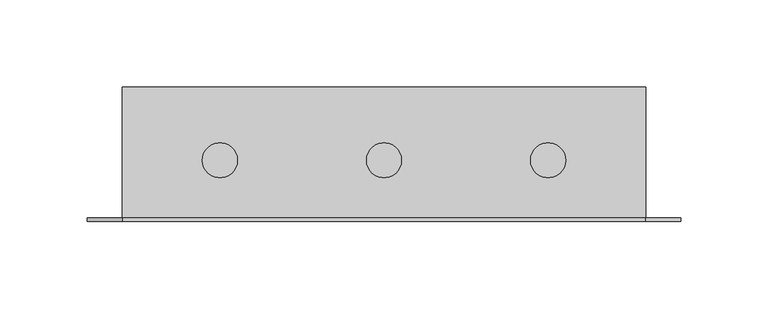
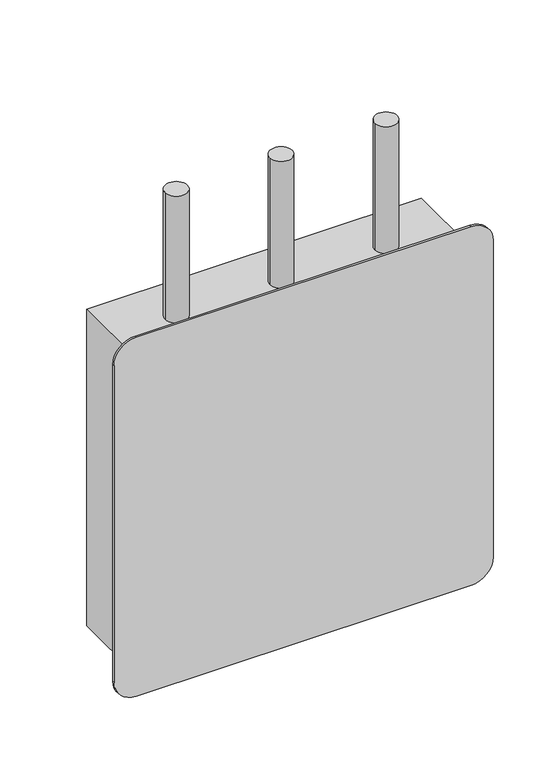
"""IFC4 building model written with IfcOpenShell, lengths in millimetres: flow terminal geometry, Plumbing Fixtures_Thermostatic Mixing Valve_Thornthwaite_Rada 215dk TMV in 300mm box : Rada 215dk TMV in a recessed box with Lid - 40861RB300."""

from ifc_helpers import new_model, si_unit, point, frame, frame_2d, origin, place, context, project, spatial, polyline, circle_curve, trimmed, segment, composite_curve, outline, extrude, faceted_brep, source, transform, mapped, element, save


def flow_terminal_be7e81ce(model_context):
    return source(origin(), model_context, "Body", "SolidModel", [
        extrude(outline(composite_curve([segment(trimmed(circle_curve(frame_2d((-94.0, -4.5)), 10.0), [point((-84.0, -4.5))], [point((-104.0, -4.5))], False, "CARTESIAN"), True, "CONTINUOUS"), segment(trimmed(circle_curve(frame_2d((-94.0, -4.5)), 10.0), [point((-104.0, -4.5))], [point((-84.0, -4.5))], False, "CARTESIAN"), True, "CONTINUOUS")], self_intersect=False)), frame((0.0, 0.0, 724.0), z_axis=(0.0, 0.0, 1.0), x_axis=(1.0, 0.0, 0.0)), (0.0, 0.0, 1.0), 216.0),
        extrude(outline(composite_curve([segment(trimmed(circle_curve(frame_2d((94.0, -4.5)), 10.0), [point((104.0, -4.5))], [point((84.0, -4.5))], False, "CARTESIAN"), True, "CONTINUOUS"), segment(trimmed(circle_curve(frame_2d((94.0, -4.5)), 10.0), [point((84.0, -4.5))], [point((104.0, -4.5))], False, "CARTESIAN"), True, "CONTINUOUS")], self_intersect=False)), frame((0.0, 0.0, 724.0), z_axis=(0.0, 0.0, 1.0), x_axis=(1.0, 0.0, 0.0)), (0.0, 0.0, 1.0), 216.0),
        extrude(outline(composite_curve([segment(trimmed(circle_curve(frame_2d((0.0, -4.5)), 10.0), [point((10.0, -4.5))], [point((-10.0, -4.5))], False, "CARTESIAN"), True, "CONTINUOUS"), segment(trimmed(circle_curve(frame_2d((0.0, -4.5)), 10.0), [point((-10.0, -4.5))], [point((10.0, -4.5))], False, "CARTESIAN"), True, "CONTINUOUS")], self_intersect=False)), frame((0.0, 0.0, 744.0), z_axis=(0.0, 0.0, 1.0), x_axis=(1.0, 0.0, 0.0)), (0.0, 0.0, 1.0), 196.0),
        faceted_brep([(-150.0, -37.5, 520.0), (150.0, -37.5, 520.0), (150.0, -37.5, 820.0), (-150.0, -37.5, 820.0), (-148.0, -37.5, 818.0), (148.0, -37.5, 818.0), (148.0, -37.5, 522.0), (-148.0, -37.5, 522.0), (-150.0, 37.5, 520.0), (-150.0, 37.5, 820.0), (150.0, 37.5, 820.0), (150.0, 37.5, 520.0), (-148.0, 35.5, 522.0), (-148.0, 35.5, 818.0), (148.0, 35.5, 522.0), (148.0, 35.5, 818.0)], [[[0, 1, 2, 3], [4, 5, 6, 7]], [[8, 9, 10, 11]], [[0, 3, 9, 8]], [[3, 2, 10, 9]], [[2, 1, 11, 10]], [[1, 0, 8, 11]], [[4, 7, 12, 13]], [[7, 6, 14, 12]], [[6, 5, 15, 14]], [[5, 4, 13, 15]], [[13, 12, 14, 15]]]),
        extrude(outline(composite_curve([segment(polyline([(840.0, 150.0), (840.0, -150.0)]), True, "CONTINUOUS"), segment(trimmed(circle_curve(frame_2d((820.0, -150.0)), 20.0), [point((840.0, -150.0))], [point((820.0, -170.0))], False, "CARTESIAN"), True, "CONTINUOUS"), segment(polyline([(820.0, -170.0), (520.0, -170.0)]), True, "CONTINUOUS"), segment(trimmed(circle_curve(frame_2d((520.0, -150.0)), 20.0), [point((520.0, -170.0))], [point((500.0, -150.0))], False, "CARTESIAN"), True, "CONTINUOUS"), segment(polyline([(500.0, -150.0), (500.0, 150.0)]), True, "CONTINUOUS"), segment(trimmed(circle_curve(frame_2d((520.0, 150.0)), 20.0), [point((500.0, 150.0))], [point((520.0, 170.0))], False, "CARTESIAN"), True, "CONTINUOUS"), segment(polyline([(520.0, 170.0), (820.0, 170.0)]), True, "CONTINUOUS"), segment(trimmed(circle_curve(frame_2d((820.0, 150.0)), 20.0), [point((820.0, 170.0))], [point((840.0, 150.0))], False, "CARTESIAN"), True, "CONTINUOUS")], self_intersect=False)), frame((0.0, -39.5, 0.0), z_axis=(0.0, 1.0, 0.0), x_axis=(0.0, 0.0, 1.0)), (0.0, 0.0, 1.0), 2.0),
    ])


if __name__ == "__main__":
    model = new_model("IFC4")
    model_context = context("Model", 3, world=origin())
    ifc_project = project(units=[si_unit("LENGTHUNIT", "METRE", prefix="MILLI")], contexts=[model_context])
    site = spatial("IfcSite", under=ifc_project)
    building = spatial("IfcBuilding", under=site)
    placement = place(None, origin())
    flow_terminal_shape = flow_terminal_be7e81ce(model_context)
    element("IfcFlowTerminal", 1, ObjectType="Plumbing Fixtures_Thermostatic Mixing Valve_Thornthwaite_Rada 215dk TMV in 300mm box : Rada 215dk TMV in a recessed box with Lid - 40861RB300", at=placement, inside=building, context=model_context, shape_type="MappedRepresentation", body=[
        mapped(flow_terminal_shape, transform((0.0, 0.0, 0.0), x_axis=(1.0, 0.0, 0.0), y_axis=(0.0, 1.0, 0.0), z_axis=(0.0, 0.0, 1.0))),
    ])
    save(model, "model.ifc")
